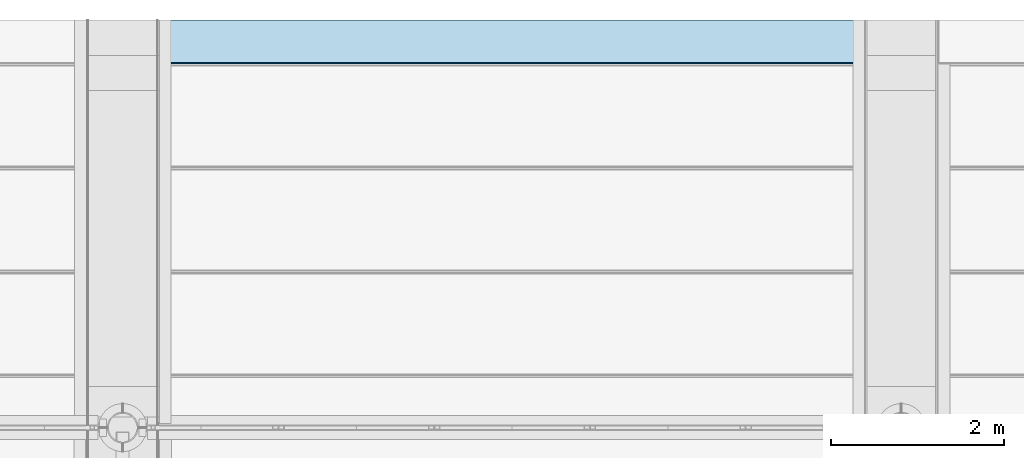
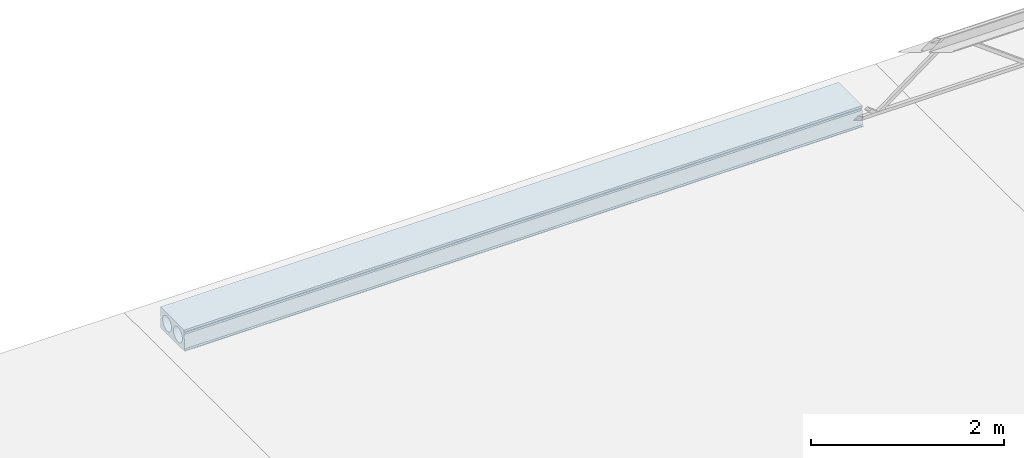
# One storey, part 20 of 21: 1 slab.
"""IFC2X3 building model written with IfcOpenShell, lengths in millimetres."""

from ifc_helpers import new_model, entity, si_unit, converted_unit, derived_unit, direction, frame, origin_with_axes, place, context, subcontext, project, spatial, faceted_brep, type_object, element, save


model = new_model("IFC2X3")

# Units and contexts
model_context = context("Model", 3, precision=0.01, world=frame((0.0, 4.29681676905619e-09, 0.0)), true_north=direction((4.01073788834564e-13, 1.0)))
plan_context = context("Plan", 3, precision=0.01, world=frame((0.0, 4.29681676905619e-09, 0.0)), true_north=direction((4.01073788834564e-13, 1.0)))
body_context = subcontext(model_context, "Body", "Model", "MODEL_VIEW")
ifc_project = project(units=[converted_unit("PLANEANGLEUNIT", "DEGREE", entity("IfcPositiveLengthMeasure", 0.0174532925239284), si_unit("PLANEANGLEUNIT", "RADIAN"), dimensions=[0, 0, 0, 0, 0, 0, 0]), si_unit("AREAUNIT", "SQUARE_METRE"), si_unit("LENGTHUNIT", "METRE", prefix="MILLI"), si_unit("MASSUNIT", "GRAM", prefix="KILO"), si_unit("POWERUNIT", "WATT"), si_unit("PRESSUREUNIT", "PASCAL", prefix="KILO"), si_unit("FORCEUNIT", "NEWTON", prefix="KILO"), si_unit("ELECTRICVOLTAGEUNIT", "VOLT"), si_unit("ELECTRICCURRENTUNIT", "AMPERE"), si_unit("THERMODYNAMICTEMPERATUREUNIT", "DEGREE_CELSIUS"), si_unit("TIMEUNIT", "SECOND"), si_unit("VOLUMEUNIT", "CUBIC_METRE"), derived_unit("LINEARVELOCITYUNIT", [(si_unit("LENGTHUNIT", "METRE"), 1), (si_unit("TIMEUNIT", "SECOND"), -1)]), derived_unit("VOLUMETRICFLOWRATEUNIT", [(si_unit("VOLUMEUNIT", "CUBIC_METRE"), 1), (si_unit("TIMEUNIT", "SECOND"), -1)]), derived_unit("THERMALTRANSMITTANCEUNIT", [(si_unit("POWERUNIT", "WATT"), 1), (si_unit("THERMODYNAMICTEMPERATUREUNIT", "KELVIN"), -1), (si_unit("AREAUNIT", "SQUARE_METRE"), -1)]), derived_unit("SOUNDPRESSUREUNIT", [(si_unit("PRESSUREUNIT", "PASCAL"), 1)])], contexts=[model_context, plan_context])

# Site, building, storey
site_placement = place(None, frame((0.0, -4.29681676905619e-09, 0.0), z_axis=(0.0, 0.0, 1.0), x_axis=(1.0, 0.0, 0.0)))
site = spatial("IfcSite", under=ifc_project, at=site_placement, Name="Gardermoen", CompositionType="ELEMENT")
building_placement = place(site_placement, frame((0.0, 4.29681676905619e-09, 0.0), z_axis=(0.0, 0.0, 1.0), x_axis=(1.0, 0.0, 0.0)))
building = spatial("IfcBuilding", under=site, at=building_placement, Name="TS", CompositionType="ELEMENT")
storey_placement = place(building_placement, origin_with_axes())
storey = spatial("IfcBuildingStorey", under=building, at=storey_placement, Name="F", CompositionType="ELEMENT", Elevation=0.0)

# Slab
slab_type = type_object("IfcSlabType", Name="HD265", PredefinedType="NOTDEFINED")
slab_placement = place(storey_placement, frame((718438.0, 446299.99967225, 210662.5), z_axis=(0.0, 0.0, 1.0), x_axis=(1.0, 0.0, 0.0)))
element("IfcSlab", 1, at=slab_placement, inside=storey, type_object=slab_type, Name="HULLDEKKE", ObjectType="HD265", PredefinedType="FLOOR", context=body_context, shape_type="Brep", body=[
    faceted_brep([(0.0, -88.5752084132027, 132.5), (8124.0, -88.5752084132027, 132.5), (8124.0, -577.5, 132.5), (0.0, -577.5, 132.5), (8124.0, -577.5, 107.5), (0.0, -577.5, 107.5), (8124.0, -570.0, 92.5), (0.0, -570.0, 92.5), (8124.0, -577.5, 77.5), (0.0, -577.5, 77.5), (8124.0, -585.0, -102.5), (0.0, -585.0, -102.5), (8124.0, -600.0, -112.5), (0.0, -600.0, -112.5), (8124.0, -600.0, -122.5), (0.0, -600.0, -122.5), (8124.0, -583.380004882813, -132.5), (0.0, -583.380004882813, -132.5), (8124.0, -88.5752084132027, -132.5), (0.0, -88.5752084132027, -132.5), (8124.0, -448.0, -92.5), (8124.0, -455.638589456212, -92.1840656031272), (0.0, -455.638589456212, -92.1840656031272), (0.0, -448.0, -92.5), (8124.0, -440.361410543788, -92.1840656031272), (0.0, -440.361410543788, -92.1840656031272), (8124.0, -432.775000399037, -91.2384205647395), (0.0, -432.775000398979, -91.2384205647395), (8124.0, -425.292592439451, -89.6695245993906), (0.0, -425.292592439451, -89.6695245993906), (8124.0, -417.965299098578, -87.4880948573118), (0.0, -417.96529909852, -87.4880948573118), (8124.0, -410.84317321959, -84.7090327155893), (0.0, -410.84317321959, -84.7090327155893), (8124.0, -403.974866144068, -81.3513219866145), (0.0, -403.974866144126, -81.3513219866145), (8124.0, -397.407295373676, -77.437899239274), (0.0, -397.407295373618, -77.437899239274), (8124.0, -391.185324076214, -72.9954971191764), (0.0, -391.185324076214, -72.9954971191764), (8124.0, -385.351454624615, -68.0544617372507), (0.0, -385.351454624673, -68.0544617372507), (8124.0, -379.94553826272, -62.6485453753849), (0.0, -379.94553826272, -62.6485453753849), (8124.0, -375.004502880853, -56.8146759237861), (0.0, -375.004502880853, -56.8146759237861), (8124.0, -370.562100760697, -50.5927046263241), (0.0, -370.562100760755, -50.5927046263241), (8124.0, -366.648678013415, -44.0251338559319), (0.0, -366.648678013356, -44.0251338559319), (8124.0, -363.290967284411, -37.1568267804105), (0.0, -363.290967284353, -37.1568267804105), (8124.0, -360.511905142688, -30.0347009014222), (0.0, -360.511905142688, -30.0347009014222), (8124.0, -358.330475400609, -22.7074075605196), (0.0, -358.330475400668, -22.7074075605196), (8124.0, -356.761579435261, -15.2249996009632), (0.0, -356.761579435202, -15.2249996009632), (8124.0, -355.815934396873, -7.63858945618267), (0.0, -355.815934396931, -7.63858945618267), (8124.0, -355.5, 0.0), (0.0, -355.5, 0.0), (8124.0, -355.815934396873, 7.63858945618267), (0.0, -355.815934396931, 7.63858945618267), (8124.0, -356.761579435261, 15.2249996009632), (0.0, -356.761579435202, 15.2249996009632), (8124.0, -358.330475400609, 22.7074075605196), (0.0, -358.330475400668, 22.7074075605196), (8124.0, -360.511905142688, 30.0347009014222), (0.0, -360.511905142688, 30.0347009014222), (8124.0, -363.290967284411, 37.1568267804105), (0.0, -363.290967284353, 37.1568267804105), (8124.0, -366.648678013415, 44.0251338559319), (0.0, -366.648678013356, 44.0251338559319), (8124.0, -370.562100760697, 50.5927046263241), (0.0, -370.562100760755, 50.5927046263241), (8124.0, -375.004502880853, 56.8146759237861), (0.0, -375.004502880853, 56.8146759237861), (8124.0, -379.94553826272, 62.6485453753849), (0.0, -379.94553826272, 62.6485453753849), (8124.0, -385.351454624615, 68.0544617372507), (0.0, -385.351454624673, 68.0544617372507), (8124.0, -391.185324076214, 72.9954971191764), (0.0, -391.185324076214, 72.9954971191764), (8124.0, -397.407295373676, 77.437899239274), (0.0, -397.407295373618, 77.437899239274), (8124.0, -403.974866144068, 81.3513219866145), (0.0, -403.974866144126, 81.3513219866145), (8124.0, -410.84317321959, 84.7090327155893), (0.0, -410.84317321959, 84.7090327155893), (8124.0, -417.965299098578, 87.4880948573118), (0.0, -417.96529909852, 87.4880948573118), (8124.0, -425.292592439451, 89.6695245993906), (0.0, -425.292592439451, 89.6695245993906), (8124.0, -432.775000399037, 91.2384205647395), (0.0, -432.775000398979, 91.2384205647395), (8124.0, -440.361410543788, 92.1840656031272), (0.0, -440.361410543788, 92.1840656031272), (8124.0, -448.0, 92.5), (0.0, -448.0, 92.5), (8124.0, -455.638589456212, 92.1840656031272), (0.0, -455.638589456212, 92.1840656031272), (8124.0, -463.224999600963, 91.2384205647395), (0.0, -463.224999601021, 91.2384205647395), (8124.0, -470.707407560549, 89.6695245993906), (0.0, -470.707407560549, 89.6695245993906), (8124.0, -478.034700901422, 87.4880948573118), (0.0, -478.03470090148, 87.4880948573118), (8124.0, -485.15682678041, 84.7090327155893), (0.0, -485.15682678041, 84.7090327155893), (8124.0, -492.025133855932, 81.3513219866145), (0.0, -492.025133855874, 81.3513219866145), (8124.0, -498.592704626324, 77.437899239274), (0.0, -498.592704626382, 77.437899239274), (8124.0, -504.814675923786, 72.9954971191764), (0.0, -504.814675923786, 72.9954971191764), (8124.0, -510.648545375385, 68.0544617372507), (0.0, -510.648545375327, 68.0544617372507), (8124.0, -516.05446173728, 62.6485453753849), (0.0, -516.05446173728, 62.6485453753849), (8124.0, -520.995497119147, 56.8146759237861), (0.0, -520.995497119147, 56.8146759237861), (8124.0, -525.437899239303, 50.5927046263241), (0.0, -525.437899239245, 50.5927046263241), (8124.0, -529.351321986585, 44.0251338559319), (0.0, -529.351321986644, 44.0251338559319), (8124.0, -532.709032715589, 37.1568267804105), (0.0, -532.709032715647, 37.1568267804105), (8124.0, -535.488094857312, 30.0347009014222), (0.0, -535.488094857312, 30.0347009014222), (8124.0, -537.669524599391, 22.7074075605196), (0.0, -537.669524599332, 22.7074075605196), (8124.0, -539.238420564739, 15.2249996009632), (0.0, -539.238420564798, 15.2249996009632), (8124.0, -540.184065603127, 7.63858945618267), (0.0, -540.184065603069, 7.63858945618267), (8124.0, -540.5, 0.0), (0.0, -540.5, 0.0), (8124.0, -540.184065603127, -7.63858945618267), (0.0, -540.184065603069, -7.63858945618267), (8124.0, -539.238420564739, -15.2249996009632), (0.0, -539.238420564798, -15.2249996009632), (8124.0, -537.669524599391, -22.7074075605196), (0.0, -537.669524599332, -22.7074075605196), (8124.0, -535.488094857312, -30.0347009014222), (0.0, -535.488094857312, -30.0347009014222), (8124.0, -532.709032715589, -37.1568267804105), (0.0, -532.709032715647, -37.1568267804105), (8124.0, -529.351321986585, -44.0251338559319), (0.0, -529.351321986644, -44.0251338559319), (8124.0, -525.437899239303, -50.5927046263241), (0.0, -525.437899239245, -50.5927046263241), (8124.0, -520.995497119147, -56.8146759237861), (0.0, -520.995497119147, -56.8146759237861), (8124.0, -516.05446173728, -62.6485453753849), (0.0, -516.05446173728, -62.6485453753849), (8124.0, -510.648545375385, -68.0544617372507), (0.0, -510.648545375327, -68.0544617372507), (8124.0, -504.814675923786, -72.9954971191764), (0.0, -504.814675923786, -72.9954971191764), (8124.0, -498.592704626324, -77.437899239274), (0.0, -498.592704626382, -77.437899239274), (8124.0, -492.025133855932, -81.3513219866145), (0.0, -492.025133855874, -81.3513219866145), (8124.0, -485.15682678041, -84.7090327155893), (0.0, -485.15682678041, -84.7090327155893), (8124.0, -478.034700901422, -87.4880948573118), (0.0, -478.03470090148, -87.4880948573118), (8124.0, -470.707407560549, -89.6695245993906), (0.0, -470.707407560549, -89.6695245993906), (8124.0, -463.224999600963, -91.2384205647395), (0.0, -463.224999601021, -91.2384205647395), (8124.0, -224.0, -92.5), (8124.0, -231.638589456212, -92.1840656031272), (0.0, -231.638589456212, -92.1840656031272), (0.0, -224.0, -92.5), (8124.0, -216.361410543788, -92.1840656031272), (0.0, -216.361410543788, -92.1840656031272), (8124.0, -208.775000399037, -91.2384205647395), (0.0, -208.775000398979, -91.2384205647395), (8124.0, -201.292592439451, -89.6695245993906), (0.0, -201.292592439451, -89.6695245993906), (8124.0, -193.965299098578, -87.4880948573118), (0.0, -193.96529909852, -87.4880948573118), (8124.0, -186.84317321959, -84.7090327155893), (0.0, -186.84317321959, -84.7090327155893), (8124.0, -179.974866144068, -81.3513219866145), (0.0, -179.974866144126, -81.3513219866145), (8124.0, -173.407295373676, -77.437899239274), (0.0, -173.407295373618, -77.437899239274), (8124.0, -167.185324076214, -72.9954971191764), (0.0, -167.185324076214, -72.9954971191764), (8124.0, -161.351454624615, -68.0544617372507), (0.0, -161.351454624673, -68.0544617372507), (8124.0, -155.94553826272, -62.6485453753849), (0.0, -155.94553826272, -62.6485453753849), (8124.0, -151.004502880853, -56.8146759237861), (0.0, -151.004502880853, -56.8146759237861), (8124.0, -146.562100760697, -50.5927046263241), (0.0, -146.562100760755, -50.5927046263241), (8124.0, -142.648678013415, -44.0251338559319), (0.0, -142.648678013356, -44.0251338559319), (8124.0, -139.290967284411, -37.1568267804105), (0.0, -139.290967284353, -37.1568267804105), (8124.0, -136.511905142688, -30.0347009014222), (0.0, -136.511905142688, -30.0347009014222), (8124.0, -134.330475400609, -22.7074075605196), (0.0, -134.330475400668, -22.7074075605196), (8124.0, -132.761579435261, -15.2249996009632), (0.0, -132.761579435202, -15.2249996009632), (8124.0, -131.815934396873, -7.63858945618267), (0.0, -131.815934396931, -7.63858945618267), (8124.0, -131.5, 0.0), (0.0, -131.5, 0.0), (8124.0, -131.815934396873, 7.63858945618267), (0.0, -131.815934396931, 7.63858945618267), (8124.0, -132.761579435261, 15.2249996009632), (0.0, -132.761579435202, 15.2249996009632), (8124.0, -134.330475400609, 22.7074075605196), (0.0, -134.330475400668, 22.7074075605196), (8124.0, -136.511905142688, 30.0347009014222), (0.0, -136.511905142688, 30.0347009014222), (8124.0, -139.290967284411, 37.1568267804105), (0.0, -139.290967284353, 37.1568267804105), (8124.0, -142.648678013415, 44.0251338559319), (0.0, -142.648678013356, 44.0251338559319), (8124.0, -146.562100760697, 50.5927046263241), (0.0, -146.562100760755, 50.5927046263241), (8124.0, -151.004502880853, 56.8146759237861), (0.0, -151.004502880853, 56.8146759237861), (8124.0, -155.94553826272, 62.6485453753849), (0.0, -155.94553826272, 62.6485453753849), (8124.0, -161.351454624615, 68.0544617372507), (0.0, -161.351454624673, 68.0544617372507), (8124.0, -167.185324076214, 72.9954971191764), (0.0, -167.185324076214, 72.9954971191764), (8124.0, -173.407295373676, 77.437899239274), (0.0, -173.407295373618, 77.437899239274), (8124.0, -179.974866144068, 81.3513219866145), (0.0, -179.974866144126, 81.3513219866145), (8124.0, -186.84317321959, 84.7090327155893), (0.0, -186.84317321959, 84.7090327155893), (8124.0, -193.965299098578, 87.4880948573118), (0.0, -193.96529909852, 87.4880948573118), (8124.0, -201.292592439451, 89.6695245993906), (0.0, -201.292592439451, 89.6695245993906), (8124.0, -208.775000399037, 91.2384205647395), (0.0, -208.775000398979, 91.2384205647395), (8124.0, -216.361410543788, 92.1840656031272), (0.0, -216.361410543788, 92.1840656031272), (8124.0, -224.0, 92.5), (0.0, -224.0, 92.5), (8124.0, -231.638589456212, 92.1840656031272), (0.0, -231.638589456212, 92.1840656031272), (8124.0, -239.224999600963, 91.2384205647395), (0.0, -239.224999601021, 91.2384205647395), (8124.0, -246.707407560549, 89.6695245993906), (0.0, -246.707407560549, 89.6695245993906), (8124.0, -254.034700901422, 87.4880948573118), (0.0, -254.03470090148, 87.4880948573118), (8124.0, -261.15682678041, 84.7090327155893), (0.0, -261.15682678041, 84.7090327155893), (8124.0, -268.025133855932, 81.3513219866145), (0.0, -268.025133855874, 81.3513219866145), (8124.0, -274.592704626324, 77.437899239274), (0.0, -274.592704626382, 77.437899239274), (8124.0, -280.814675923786, 72.9954971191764), (0.0, -280.814675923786, 72.9954971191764), (8124.0, -286.648545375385, 68.0544617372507), (0.0, -286.648545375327, 68.0544617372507), (8124.0, -292.05446173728, 62.6485453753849), (0.0, -292.05446173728, 62.6485453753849), (8124.0, -296.995497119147, 56.8146759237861), (0.0, -296.995497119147, 56.8146759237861), (8124.0, -301.437899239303, 50.5927046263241), (0.0, -301.437899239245, 50.5927046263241), (8124.0, -305.351321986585, 44.0251338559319), (0.0, -305.351321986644, 44.0251338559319), (8124.0, -308.709032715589, 37.1568267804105), (0.0, -308.709032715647, 37.1568267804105), (8124.0, -311.488094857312, 30.0347009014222), (0.0, -311.488094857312, 30.0347009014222), (8124.0, -313.669524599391, 22.7074075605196), (0.0, -313.669524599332, 22.7074075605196), (8124.0, -315.238420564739, 15.2249996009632), (0.0, -315.238420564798, 15.2249996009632), (8124.0, -316.184065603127, 7.63858945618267), (0.0, -316.184065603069, 7.63858945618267), (8124.0, -316.5, 0.0), (0.0, -316.5, 0.0), (8124.0, -316.184065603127, -7.63858945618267), (0.0, -316.184065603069, -7.63858945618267), (8124.0, -315.238420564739, -15.2249996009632), (0.0, -315.238420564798, -15.2249996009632), (8124.0, -313.669524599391, -22.7074075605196), (0.0, -313.669524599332, -22.7074075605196), (8124.0, -311.488094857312, -30.0347009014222), (0.0, -311.488094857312, -30.0347009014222), (8124.0, -308.709032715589, -37.1568267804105), (0.0, -308.709032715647, -37.1568267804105), (8124.0, -305.351321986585, -44.0251338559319), (0.0, -305.351321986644, -44.0251338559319), (8124.0, -301.437899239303, -50.5927046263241), (0.0, -301.437899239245, -50.5927046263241), (8124.0, -296.995497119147, -56.8146759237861), (0.0, -296.995497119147, -56.8146759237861), (8124.0, -292.05446173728, -62.6485453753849), (0.0, -292.05446173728, -62.6485453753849), (8124.0, -286.648545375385, -68.0544617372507), (0.0, -286.648545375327, -68.0544617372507), (8124.0, -280.814675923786, -72.9954971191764), (0.0, -280.814675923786, -72.9954971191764), (8124.0, -274.592704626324, -77.437899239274), (0.0, -274.592704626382, -77.437899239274), (8124.0, -268.025133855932, -81.3513219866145), (0.0, -268.025133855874, -81.3513219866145), (8124.0, -261.15682678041, -84.7090327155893), (0.0, -261.15682678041, -84.7090327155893), (8124.0, -254.034700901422, -87.4880948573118), (0.0, -254.03470090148, -87.4880948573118), (8124.0, -246.707407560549, -89.6695245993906), (0.0, -246.707407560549, -89.6695245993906), (8124.0, -239.224999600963, -91.2384205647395), (0.0, -239.224999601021, -91.2384205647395), (8124.0, -88.5752084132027, 26.3831508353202), (0.0, -88.5752084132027, 26.3831508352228), (0.0, -89.6695245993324, 22.7074075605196), (8124.0, -89.6695245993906, 22.7074075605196), (8124.0, -91.2384205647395, 15.2249996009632), (0.0, -91.2384205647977, 15.2249996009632), (8124.0, -92.1840656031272, 7.63858945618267), (0.0, -92.184065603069, 7.63858945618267), (8124.0, -92.5, 0.0), (0.0, -92.5, 0.0), (8124.0, -92.1840656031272, -7.63858945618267), (0.0, -92.184065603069, -7.63858945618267), (8124.0, -91.2384205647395, -15.2249996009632), (0.0, -91.2384205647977, -15.2249996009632), (8124.0, -89.6695245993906, -22.7074075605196), (0.0, -89.6695245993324, -22.7074075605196), (0.0, -88.5752084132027, -26.3831508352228), (8124.0, -88.5752084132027, -26.3831508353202)], [[[0, 1, 2, 3]], [[2, 4, 5, 3]], [[4, 6, 7, 5]], [[6, 8, 9, 7]], [[8, 10, 11, 9]], [[10, 12, 13, 11]], [[12, 14, 15, 13]], [[14, 16, 17, 15]], [[18, 19, 17, 16]], [[20, 21, 22, 23]], [[24, 20, 23, 25]], [[26, 24, 25, 27]], [[28, 26, 27, 29]], [[30, 28, 29, 31]], [[32, 30, 31, 33]], [[34, 32, 33, 35]], [[36, 34, 35, 37]], [[38, 36, 37, 39]], [[40, 38, 39, 41]], [[42, 40, 41, 43]], [[44, 42, 43, 45]], [[46, 44, 45, 47]], [[48, 46, 47, 49]], [[50, 48, 49, 51]], [[52, 50, 51, 53]], [[54, 52, 53, 55]], [[56, 54, 55, 57]], [[58, 56, 57, 59]], [[60, 58, 59, 61]], [[62, 60, 61, 63]], [[64, 62, 63, 65]], [[66, 64, 65, 67]], [[68, 66, 67, 69]], [[70, 68, 69, 71]], [[72, 70, 71, 73]], [[74, 72, 73, 75]], [[76, 74, 75, 77]], [[78, 76, 77, 79]], [[80, 78, 79, 81]], [[82, 80, 81, 83]], [[84, 82, 83, 85]], [[86, 84, 85, 87]], [[88, 86, 87, 89]], [[90, 88, 89, 91]], [[92, 90, 91, 93]], [[94, 92, 93, 95]], [[96, 94, 95, 97]], [[98, 96, 97, 99]], [[100, 98, 99, 101]], [[102, 100, 101, 103]], [[104, 102, 103, 105]], [[106, 104, 105, 107]], [[108, 106, 107, 109]], [[110, 108, 109, 111]], [[112, 110, 111, 113]], [[114, 112, 113, 115]], [[116, 114, 115, 117]], [[118, 116, 117, 119]], [[120, 118, 119, 121]], [[122, 120, 121, 123]], [[124, 122, 123, 125]], [[126, 124, 125, 127]], [[128, 126, 127, 129]], [[130, 128, 129, 131]], [[132, 130, 131, 133]], [[134, 132, 133, 135]], [[136, 134, 135, 137]], [[138, 136, 137, 139]], [[140, 138, 139, 141]], [[142, 140, 141, 143]], [[144, 142, 143, 145]], [[146, 144, 145, 147]], [[148, 146, 147, 149]], [[150, 148, 149, 151]], [[152, 150, 151, 153]], [[154, 152, 153, 155]], [[156, 154, 155, 157]], [[158, 156, 157, 159]], [[160, 158, 159, 161]], [[162, 160, 161, 163]], [[164, 162, 163, 165]], [[166, 164, 165, 167]], [[168, 166, 167, 169]], [[170, 168, 169, 171]], [[21, 170, 171, 22]], [[172, 173, 174, 175]], [[176, 172, 175, 177]], [[178, 176, 177, 179]], [[180, 178, 179, 181]], [[182, 180, 181, 183]], [[184, 182, 183, 185]], [[186, 184, 185, 187]], [[188, 186, 187, 189]], [[190, 188, 189, 191]], [[192, 190, 191, 193]], [[194, 192, 193, 195]], [[196, 194, 195, 197]], [[198, 196, 197, 199]], [[200, 198, 199, 201]], [[202, 200, 201, 203]], [[204, 202, 203, 205]], [[206, 204, 205, 207]], [[208, 206, 207, 209]], [[210, 208, 209, 211]], [[212, 210, 211, 213]], [[214, 212, 213, 215]], [[216, 214, 215, 217]], [[218, 216, 217, 219]], [[220, 218, 219, 221]], [[222, 220, 221, 223]], [[224, 222, 223, 225]], [[226, 224, 225, 227]], [[228, 226, 227, 229]], [[230, 228, 229, 231]], [[232, 230, 231, 233]], [[234, 232, 233, 235]], [[236, 234, 235, 237]], [[238, 236, 237, 239]], [[240, 238, 239, 241]], [[242, 240, 241, 243]], [[244, 242, 243, 245]], [[246, 244, 245, 247]], [[248, 246, 247, 249]], [[250, 248, 249, 251]], [[252, 250, 251, 253]], [[254, 252, 253, 255]], [[256, 254, 255, 257]], [[258, 256, 257, 259]], [[260, 258, 259, 261]], [[262, 260, 261, 263]], [[264, 262, 263, 265]], [[266, 264, 265, 267]], [[268, 266, 267, 269]], [[270, 268, 269, 271]], [[272, 270, 271, 273]], [[274, 272, 273, 275]], [[276, 274, 275, 277]], [[278, 276, 277, 279]], [[280, 278, 279, 281]], [[282, 280, 281, 283]], [[284, 282, 283, 285]], [[286, 284, 285, 287]], [[288, 286, 287, 289]], [[290, 288, 289, 291]], [[292, 290, 291, 293]], [[294, 292, 293, 295]], [[296, 294, 295, 297]], [[298, 296, 297, 299]], [[300, 298, 299, 301]], [[302, 300, 301, 303]], [[304, 302, 303, 305]], [[306, 304, 305, 307]], [[308, 306, 307, 309]], [[310, 308, 309, 311]], [[312, 310, 311, 313]], [[314, 312, 313, 315]], [[316, 314, 315, 317]], [[318, 316, 317, 319]], [[320, 318, 319, 321]], [[322, 320, 321, 323]], [[173, 322, 323, 174]], [[324, 325, 326, 327]], [[328, 327, 326, 329]], [[330, 328, 329, 331]], [[332, 330, 331, 333]], [[334, 332, 333, 335]], [[336, 334, 335, 337]], [[338, 336, 337, 339]], [[340, 341, 338, 339]], [[1, 324, 327, 328, 330, 332, 334, 336, 338, 341, 18, 16, 14, 12, 10, 8, 6, 4, 2], [173, 172, 176, 178, 180, 182, 184, 186, 188, 190, 192, 194, 196, 198, 200, 202, 204, 206, 208, 210, 212, 214, 216, 218, 220, 222, 224, 226, 228, 230, 232, 234, 236, 238, 240, 242, 244, 246, 248, 250, 252, 254, 256, 258, 260, 262, 264, 266, 268, 270, 272, 274, 276, 278, 280, 282, 284, 286, 288, 290, 292, 294, 296, 298, 300, 302, 304, 306, 308, 310, 312, 314, 316, 318, 320, 322], [21, 20, 24, 26, 28, 30, 32, 34, 36, 38, 40, 42, 44, 46, 48, 50, 52, 54, 56, 58, 60, 62, 64, 66, 68, 70, 72, 74, 76, 78, 80, 82, 84, 86, 88, 90, 92, 94, 96, 98, 100, 102, 104, 106, 108, 110, 112, 114, 116, 118, 120, 122, 124, 126, 128, 130, 132, 134, 136, 138, 140, 142, 144, 146, 148, 150, 152, 154, 156, 158, 160, 162, 164, 166, 168, 170]], [[19, 340, 339, 337, 335, 333, 331, 329, 326, 325, 0, 3, 5, 7, 9, 11, 13, 15, 17], [175, 174, 323, 321, 319, 317, 315, 313, 311, 309, 307, 305, 303, 301, 299, 297, 295, 293, 291, 289, 287, 285, 283, 281, 279, 277, 275, 273, 271, 269, 267, 265, 263, 261, 259, 257, 255, 253, 251, 249, 247, 245, 243, 241, 239, 237, 235, 233, 231, 229, 227, 225, 223, 221, 219, 217, 215, 213, 211, 209, 207, 205, 203, 201, 199, 197, 195, 193, 191, 189, 187, 185, 183, 181, 179, 177], [23, 22, 171, 169, 167, 165, 163, 161, 159, 157, 155, 153, 151, 149, 147, 145, 143, 141, 139, 137, 135, 133, 131, 129, 127, 125, 123, 121, 119, 117, 115, 113, 111, 109, 107, 105, 103, 101, 99, 97, 95, 93, 91, 89, 87, 85, 83, 81, 79, 77, 75, 73, 71, 69, 67, 65, 63, 61, 59, 57, 55, 53, 51, 49, 47, 45, 43, 41, 39, 37, 35, 33, 31, 29, 27, 25]], [[325, 324, 1, 0]], [[341, 340, 19, 18]]], orient=[[False], [False], [False], [False], [False], [False], [False], [False], [False], [False], [False], [False], [False], [False], [False], [False], [False], [False], [False], [False], [False], [False], [False], [False], [False], [False], [False], [False], [False], [False], [False], [False], [False], [False], [False], [False], [False], [False], [False], [False], [False], [False], [False], [False], [False], [False], [False], [False], [False], [False], [False], [False], [False], [False], [False], [False], [False], [False], [False], [False], [False], [False], [False], [False], [False], [False], [False], [False], [False], [False], [False], [False], [False], [False], [False], [False], [False], [False], [False], [False], [False], [False], [False], [False], [False], [False], [False], [False], [False], [False], [False], [False], [False], [False], [False], [False], [False], [False], [False], [False], [False], [False], [False], [False], [False], [False], [False], [False], [False], [False], [False], [False], [False], [False], [False], [False], [False], [False], [False], [False], [False], [False], [False], [False], [False], [False], [False], [False], [False], [False], [False], [False], [False], [False], [False], [False], [False], [False], [False], [False], [False], [False], [False], [False], [False], [False], [False], [False], [False], [False], [False], [False], [False], [False], [False], [False], [False], [False], [False], [False], [False], [False], [False], [False], [False], [False], [False], [False], [False], [False, False, False], [False, False, False], [False], [False]]),
])

save(model, "model.ifc")
